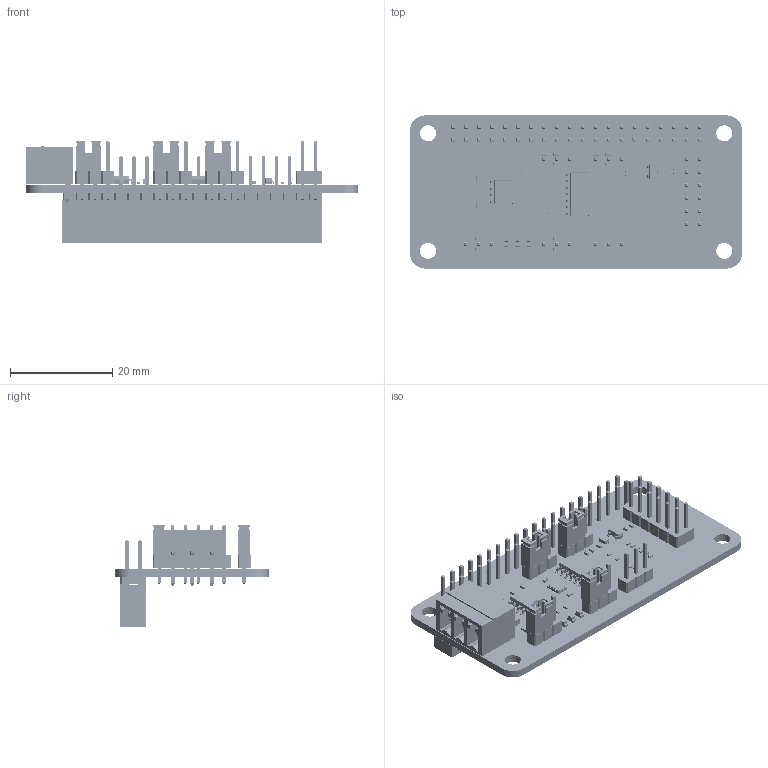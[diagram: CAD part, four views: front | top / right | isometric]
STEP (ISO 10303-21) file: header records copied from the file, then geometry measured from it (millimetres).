
FILE_DESCRIPTION(('KiCad electronic assembly'),'2;1');
FILE_NAME('KAmodCAN-FD.step','2026-05-19T19:30:33',('Pcbnew'),('Kicad'), 'Open CASCADE STEP processor 7.9','KiCad to STEP converter','Unknown' );
FILE_SCHEMA(('AUTOMOTIVE_DESIGN { 1 0 10303 214 1 1 1 1 }'));
Length unit declared in the file: millimetre
Products named in the file (21): KAmodCAN-FD 1; C_0402_1005Metric; PinHeader_2x06_P2.54mm_Vertical; R_0402_1005Metric; PinHeader_1x03_P2.54mm_Vertical; AKSPT-G-RED; LED_0603_1608Metric; R_0805_2012Metric; D_SOD-323F; C_0805_2012Metric; Crystal_SMD_SeikoEpson_TSX3225-4Pin_3.2x2.5mm; PhoenixContact_MC_1,5_3-G-3.81_1x03_P3.81mm_Horizontal; SOT-23; SOIC-8_3.9x4.9mm_P1.27mm; SOIC-14_3.9x8.7mm_P1.27mm; PinHeader_2x20_P2.54mm_Vertical; PinSocket_2x20_P2.54mm_Vertical; 3D_KAmodCAN-FD_pad; 3D_KAmodCAN-FD_silkscreen; 3D_KAmodCAN-FD_soldermask; 3D_KAmodCAN-FD_PCB
Assembly tree (53 placements, depth 2):
  KAmodCAN-FD 1
    C_0402_1005Metric  x10
    PinHeader_2x06_P2.54mm_Vertical
    R_0402_1005Metric  x15
    PinHeader_1x03_P2.54mm_Vertical  x5
    AKSPT-G-RED  x4
    LED_0603_1608Metric  x3
    R_0805_2012Metric
    D_SOD-323F
    C_0805_2012Metric  x2
    Crystal_SMD_SeikoEpson_TSX3225-4Pin_3.2x2.5mm
    PhoenixContact_MC_1,5_3-G-3.81_1x03_P3.81mm_Horizontal
    SOT-23
    SOIC-8_3.9x4.9mm_P1.27mm
    SOIC-14_3.9x8.7mm_P1.27mm
    PinHeader_2x20_P2.54mm_Vertical
    PinSocket_2x20_P2.54mm_Vertical
    3D_KAmodCAN-FD_pad
    3D_KAmodCAN-FD_silkscreen
    3D_KAmodCAN-FD_soldermask
    3D_KAmodCAN-FD_PCB
Bounding box: 65 x 30 x 20.04 mm (x, y, z)
Volume: 7038.1 mm3; surface area: 17386.2 mm2
Topology: 378 solids, 651 shells, 6788 faces, 23510 edges, 17999 vertices
Faces by surface type: plane 5347, cylinder 1383, bspline 58
Full cylindrical faces by diameter (mm): 0.95 x201, 1 x134, 1.15 x9, 1.2 x6, 1.7 x42, 3.15 x20, 3.2 x8, 3.6 x8, 5.6 x8
Entity records: 251464 total; most frequent: CARTESIAN_POINT 42247, DIRECTION 35322, ORIENTED_EDGE 32811, EDGE_CURVE 20372, LINE 16402, VECTOR 16402, VERTEX_POINT 15965, AXIS2_PLACEMENT_3D 9460
